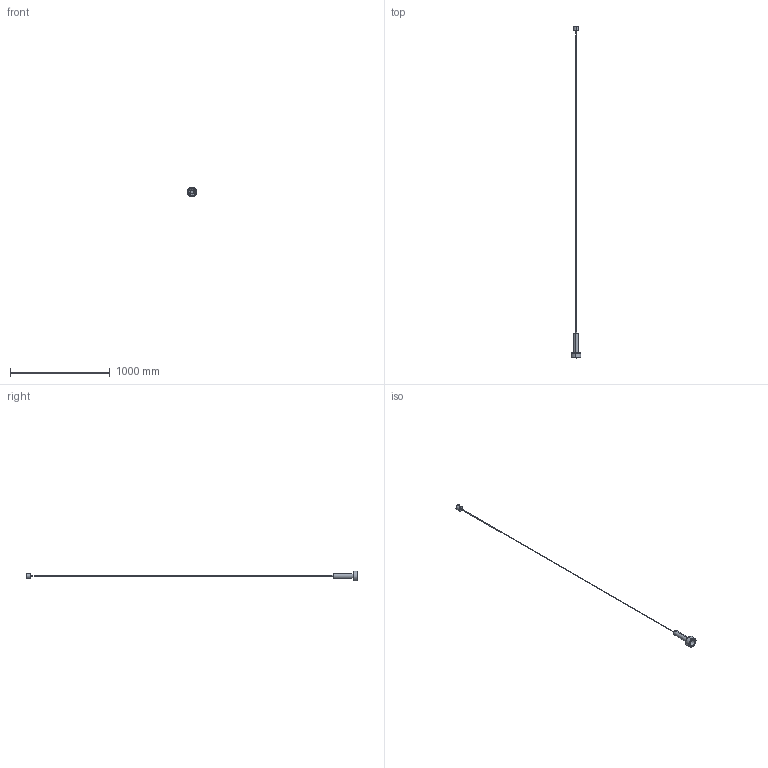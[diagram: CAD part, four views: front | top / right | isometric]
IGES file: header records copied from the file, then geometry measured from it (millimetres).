
Start section: SolidWorks IGES file using analytic representation for surfaces
Global section: file name: C:\Users\Agus\Desktop\1279\C1279\C1279.IGS; native system: SolidWorks 2018; preprocessor: SolidWorks 2018; author: Agus; date: 191018.115006; units: millimetre
Bounding box: 99.99 x 3325 x 99.94 mm (x, y, z)
Surface area: 143303.7 mm2 (no closed solid volume)
Topology: 0 solids, 0 shells, 37 faces, 924 edges, 924 vertices
Faces by surface type: bspline 23, revolution 14
